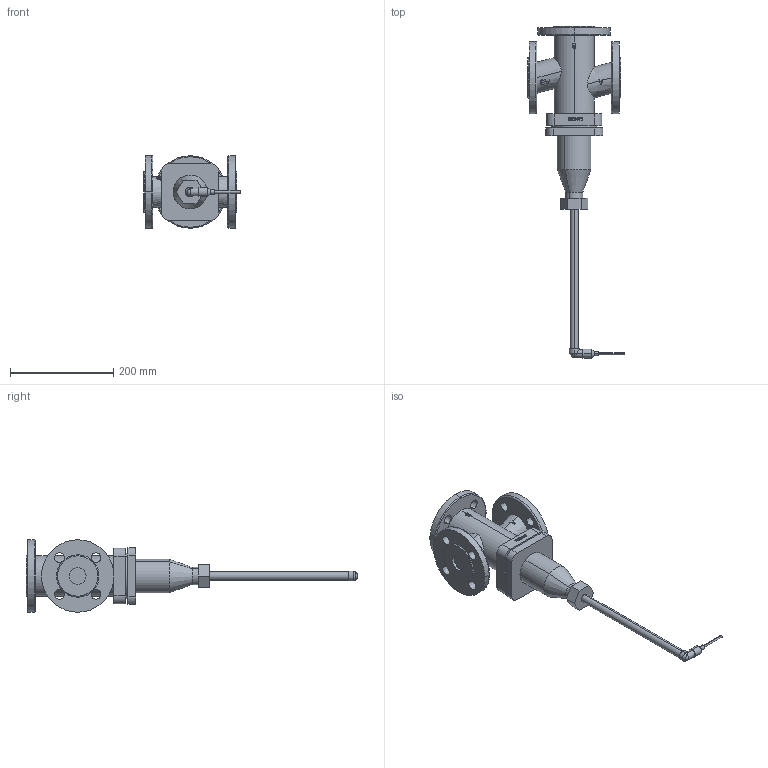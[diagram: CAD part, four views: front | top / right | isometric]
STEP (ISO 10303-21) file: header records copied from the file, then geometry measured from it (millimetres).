
FILE_DESCRIPTION (( 'STEP AP203' ), '1' );
FILE_NAME ('2803_2119_3M_DIN_032_016_EN-JL1040_B1_std_.STEP', '2010-09-14T10:16:21', ( '' ), ( '' ), 'SwSTEP 2.0', 'SolidWorks 2006303', '' );
FILE_SCHEMA (( 'CONFIG_CONTROL_DESIGN' ));
Length unit declared in the file: millimetre
Products named in the file (12): 2803_2119_3M_DIN_032_016_EN-JL1040_B1_std_Standard; 01400463_Führungshaube_Standard; Geh3244_3M_DIN_032_016_EN-JL1040_B1_std_01021327_Standard; 2803_2119_3M_DIN_032_016_EN-JL1040_B1_std_; Thermostat_Typ2233_TL430_d25_Standard; Rohr02_Standard; Thermostat_Typ2233_Teil02_ohne Verlängerung_Standard; 84121521_Dichtring_Standard; 01602677_Führungring_Standard; 00101288_Federrohrboden_Standard; 04104955_Flansch_Standard; 03202024_Unterteil_Standard
Assembly tree (12 placements, depth 3):
  2803_2119_3M_DIN_032_016_EN-JL1040_B1_std_
    2803_2119_3M_DIN_032_016_EN-JL1040_B1_std_Standard
      04104955_Flansch_Standard
      00101288_Federrohrboden_Standard
      03202024_Unterteil_Standard
      Geh3244_3M_DIN_032_016_EN-JL1040_B1_std_01021327_Standard
      01400463_Führungshaube_Standard
      84121521_Dichtring_Standard  x2
      01602677_Führungring_Standard
    Thermostat_Typ2233_TL430_d25_Standard
      Rohr02_Standard
      Thermostat_Typ2233_Teil02_ohne Verlängerung_Standard
Bounding box: 187 x 641.57 x 140 mm (x, y, z)
Volume: 2642840.1 mm3; surface area: 325221.7 mm2
Topology: 10 solids, 10 shells, 380 faces, 947 edges, 614 vertices
Faces by surface type: plane 151, bspline 105, cylinder 100, torus 12, cone 11, sphere 1
Entity records: 16473 total; most frequent: CARTESIAN_POINT 6693, ORIENTED_EDGE 1870, DIRECTION 1552, EDGE_CURVE 935, VERTEX_POINT 606, AXIS2_PLACEMENT_3D 565, EDGE_LOOP 429, VECTOR 422
